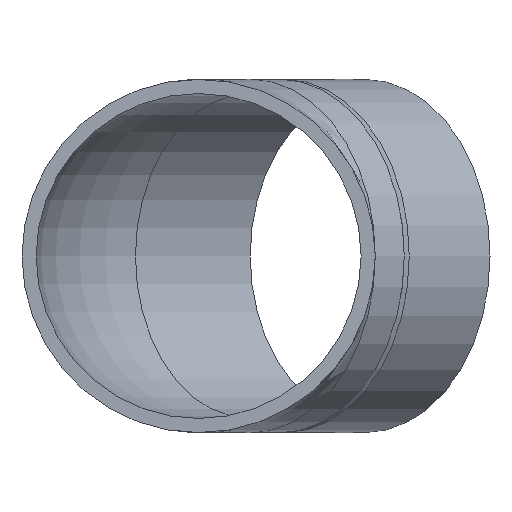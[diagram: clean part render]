
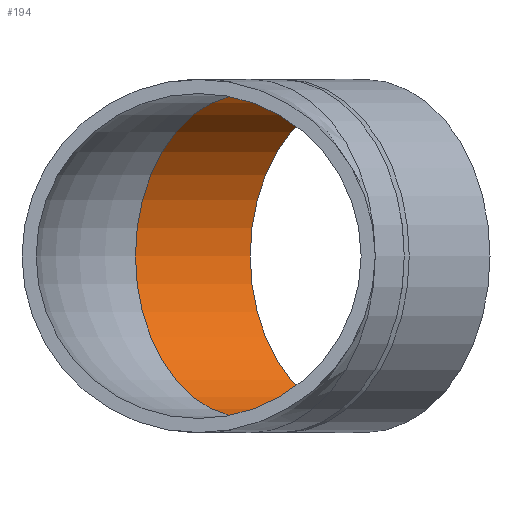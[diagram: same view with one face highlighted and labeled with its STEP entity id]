
A CAD part, front view. The second image highlights one B-rep face of the part: STEP entity #194.
In plain terms, the highlighted cylindrical face has radius 34.5 mm (diameter 69 mm), a full revolution.
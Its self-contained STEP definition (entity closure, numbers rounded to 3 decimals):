
#17=CYLINDRICAL_SURFACE($,#223,34.5);
#30=FACE_BOUND($,#71,.T.);
#50=FACE_OUTER_BOUND($,#70,.T.);
#70=EDGE_LOOP($,(#147));
#71=EDGE_LOOP($,(#148));
#96=CIRCLE($,#224,34.5);
#97=CIRCLE($,#225,34.5);
#111=VERTEX_POINT($,#369);
#112=VERTEX_POINT($,#371);
#127=EDGE_CURVE($,#111,#111,#96,.T.);
#128=EDGE_CURVE($,#112,#112,#97,.T.);
#147=ORIENTED_EDGE($,*,*,#127,.F.);
#148=ORIENTED_EDGE($,*,*,#128,.T.);
#194=ADVANCED_FACE($,(#50,#30),#17,.F.);
#223=AXIS2_PLACEMENT_3D($,#368,#273,#274);
#224=AXIS2_PLACEMENT_3D($,#370,#275,#276);
#225=AXIS2_PLACEMENT_3D($,#372,#277,#278);
#273=DIRECTION('center_axis',(0.707,0.707,0.));
#274=DIRECTION('ref_axis',(0.707,-0.707,0.));
#275=DIRECTION('center_axis',(-0.707,-0.707,0.));
#276=DIRECTION('ref_axis',(0.707,-0.707,0.));
#277=DIRECTION('center_axis',(-0.707,-0.707,0.));
#278=DIRECTION('ref_axis',(0.707,-0.707,0.));
#368=CARTESIAN_POINT('Origin',(10.983,60.983,0.));
#369=CARTESIAN_POINT('',(10.96,109.751,0.));
#370=CARTESIAN_POINT('Origin',(35.355,85.355,0.));
#371=CARTESIAN_POINT('',(-13.412,85.379,0.));
#372=CARTESIAN_POINT('Origin',(10.983,60.983,0.));
